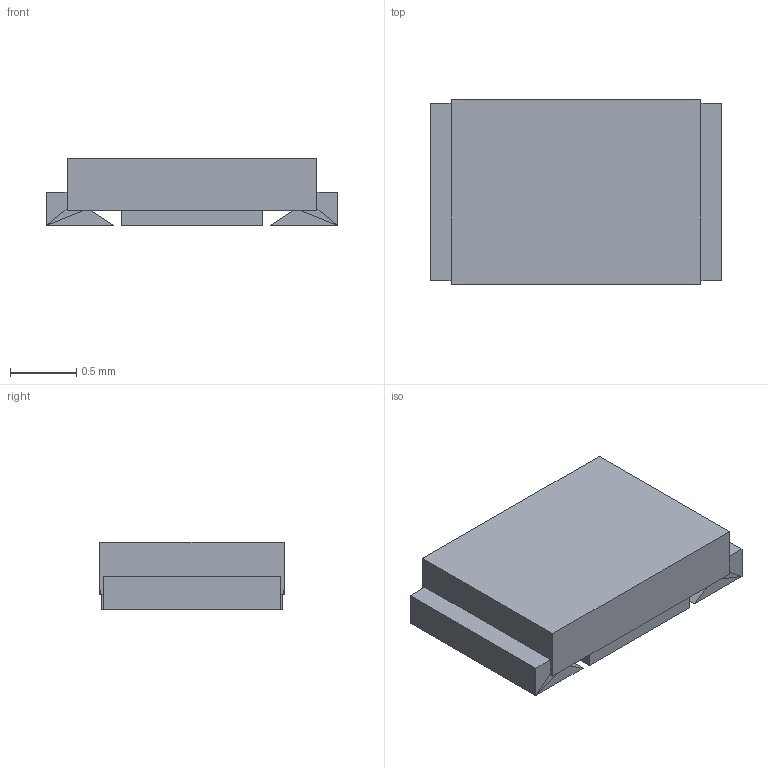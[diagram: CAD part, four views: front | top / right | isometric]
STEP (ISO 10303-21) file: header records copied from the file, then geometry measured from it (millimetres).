
FILE_DESCRIPTION(('STEP AP214'),'1');
FILE_NAME('RES_CRCW_0805_VIS','2025-12-29T06:54:24',(''),(''),'','','');
FILE_SCHEMA(('AUTOMOTIVE_DESIGN'));
Length unit declared in the file: millimetre
Products named in the file (1): product
Bounding box: 2.21 x 1.4 x 0.51 mm (x, y, z)
Volume: 1.1 mm3; surface area: 13.7 mm2
Topology: 1 solids, 5 shells, 36 faces, 76 edges, 44 vertices
Faces by surface type: plane 36
Entity records: 1068 total; most frequent: ORIENTED_EDGE 164, DIRECTION 150, CARTESIAN_POINT 85, EDGE_CURVE 76, LINE 76, VECTOR 76, VERTEX_POINT 48, AXIS2_PLACEMENT_3D 37
